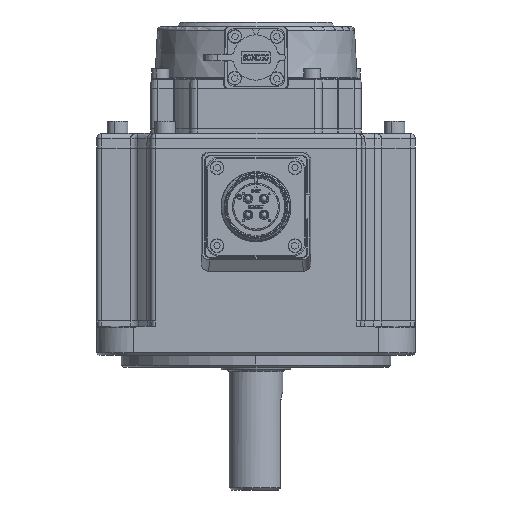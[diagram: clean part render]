
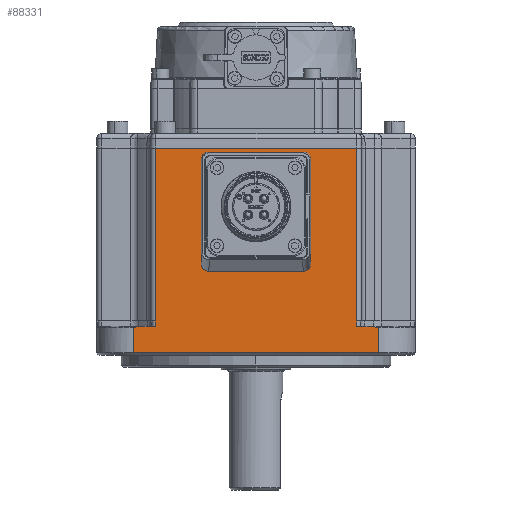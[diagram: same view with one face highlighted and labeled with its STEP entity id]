
A CAD part, left-side view. The second image highlights one B-rep face of the part: STEP entity #88331.
In plain terms, the highlighted planar face has unit normal (-1, 0, 0).
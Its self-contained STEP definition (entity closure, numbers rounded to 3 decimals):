
#738 = VECTOR ( 'NONE', #72675, 1000. ) ;
#1476 = VECTOR ( 'NONE', #42915, 1000. ) ;
#1719 = ORIENTED_EDGE ( 'NONE', *, *, #7690, .T. ) ;
#2017 = VECTOR ( 'NONE', #93277, 1000. ) ;
#3777 = VERTEX_POINT ( 'NONE', #29161 ) ;
#6584 = CARTESIAN_POINT ( 'NONE',  ( -65., -41.035, 33.75 ) ) ;
#7690 = EDGE_CURVE ( 'NONE', #49810, #59079, #87220, .T. ) ;
#10618 = CARTESIAN_POINT ( 'NONE',  ( -65., -50., 33.75 ) ) ;
#10635 = CARTESIAN_POINT ( 'NONE',  ( -65., 50., 33.75 ) ) ;
#10963 = VERTEX_POINT ( 'NONE', #95798 ) ;
#11436 = VECTOR ( 'NONE', #28875, 1000. ) ;
#11729 = LINE ( 'NONE', #62668, #22229 ) ;
#13760 = CARTESIAN_POINT ( 'NONE',  ( -65., -41.035, -39.096 ) ) ;
#14695 = VERTEX_POINT ( 'NONE', #39243 ) ;
#16201 = VERTEX_POINT ( 'NONE', #95745 ) ;
#19129 = DIRECTION ( 'NONE',  ( 0., 0., -1. ) ) ;
#19313 = EDGE_CURVE ( 'NONE', #10963, #14695, #31555, .T. ) ;
#20188 = EDGE_CURVE ( 'NONE', #75779, #14695, #26968, .T. ) ;
#20271 = EDGE_CURVE ( 'NONE', #98605, #10963, #52956, .T. ) ;
#20412 = ORIENTED_EDGE ( 'NONE', *, *, #74890, .F. ) ;
#21114 = DIRECTION ( 'NONE',  ( 0., 0., 1. ) ) ;
#21327 = CARTESIAN_POINT ( 'NONE',  ( -65., 50., -39.247 ) ) ;
#22229 = VECTOR ( 'NONE', #61091, 1000. ) ;
#22722 = ORIENTED_EDGE ( 'NONE', *, *, #61776, .F. ) ;
#24383 = LINE ( 'NONE', #97054, #738 ) ;
#26968 = LINE ( 'NONE', #60919, #2017 ) ;
#28875 = DIRECTION ( 'NONE',  ( 0., 0., -1. ) ) ;
#29161 = CARTESIAN_POINT ( 'NONE',  ( -65., -50., -49.75 ) ) ;
#31555 = LINE ( 'NONE', #6584, #98521 ) ;
#33081 = CARTESIAN_POINT ( 'NONE',  ( -65., 41.035, -39.094 ) ) ;
#33848 = EDGE_LOOP ( 'NONE', ( #34436, #1719, #20412, #98635, #89975, #66725, #22722, #56338, #94186, #101081 ) ) ;
#34436 = ORIENTED_EDGE ( 'NONE', *, *, #78892, .T. ) ;
#38987 = DIRECTION ( 'NONE',  ( 0., 0., 1. ) ) ;
#39243 = CARTESIAN_POINT ( 'NONE',  ( -65., -41.035, 33.75 ) ) ;
#42915 = DIRECTION ( 'NONE',  ( 0., -1., -0.018 ) ) ;
#45476 = VECTOR ( 'NONE', #96777, 1000. ) ;
#45833 = CARTESIAN_POINT ( 'NONE',  ( -65., 41.035, -36.75 ) ) ;
#47178 = PLANE ( 'NONE',  #100098 ) ;
#48969 = VERTEX_POINT ( 'NONE', #82466 ) ;
#49422 = VECTOR ( 'NONE', #19129, 1000. ) ;
#49810 = VERTEX_POINT ( 'NONE', #45833 ) ;
#52956 = LINE ( 'NONE', #91695, #61356 ) ;
#53543 = DIRECTION ( 'NONE',  ( 1., 0., 0. ) ) ;
#56338 = ORIENTED_EDGE ( 'NONE', *, *, #20271, .T. ) ;
#59079 = VERTEX_POINT ( 'NONE', #33081 ) ;
#60768 = EDGE_CURVE ( 'NONE', #48969, #3777, #72387, .T. ) ;
#60919 = CARTESIAN_POINT ( 'NONE',  ( -65., -43., 33.75 ) ) ;
#61091 = DIRECTION ( 'NONE',  ( 0., -1., 0.017 ) ) ;
#61356 = VECTOR ( 'NONE', #21114, 1000. ) ;
#61774 = CARTESIAN_POINT ( 'NONE',  ( -65., 41.035, -36.75 ) ) ;
#61776 = EDGE_CURVE ( 'NONE', #98605, #16201, #81701, .T. ) ;
#61812 = CARTESIAN_POINT ( 'NONE',  ( -65., 41.035, 33.75 ) ) ;
#62668 = CARTESIAN_POINT ( 'NONE',  ( -65., -44.224, -37.631 ) ) ;
#66725 = ORIENTED_EDGE ( 'NONE', *, *, #85316, .T. ) ;
#68704 = VERTEX_POINT ( 'NONE', #21327 ) ;
#69021 = LINE ( 'NONE', #10635, #49422 ) ;
#70675 = VECTOR ( 'NONE', #91816, 1000. ) ;
#71021 = DIRECTION ( 'NONE',  ( 0., 1., 0. ) ) ;
#72387 = LINE ( 'NONE', #96266, #45476 ) ;
#72493 = EDGE_CURVE ( 'NONE', #68704, #48969, #69021, .T. ) ;
#72675 = DIRECTION ( 'NONE',  ( 0., 0., -1. ) ) ;
#74890 = EDGE_CURVE ( 'NONE', #68704, #59079, #11729, .T. ) ;
#75374 = LINE ( 'NONE', #10618, #70675 ) ;
#75779 = VERTEX_POINT ( 'NONE', #61812 ) ;
#78892 = EDGE_CURVE ( 'NONE', #75779, #49810, #24383, .T. ) ;
#79009 = CARTESIAN_POINT ( 'NONE',  ( -65., -43., 33.75 ) ) ;
#81701 = LINE ( 'NONE', #89640, #1476 ) ;
#82466 = CARTESIAN_POINT ( 'NONE',  ( -65., 50., -49.75 ) ) ;
#85316 = EDGE_CURVE ( 'NONE', #3777, #16201, #75374, .T. ) ;
#87220 = LINE ( 'NONE', #61774, #11436 ) ;
#88331 = ADVANCED_FACE ( 'NONE', ( #103387 ), #47178, .F. ) ;
#89640 = CARTESIAN_POINT ( 'NONE',  ( -65., -41.707, -39.108 ) ) ;
#89975 = ORIENTED_EDGE ( 'NONE', *, *, #60768, .T. ) ;
#91695 = CARTESIAN_POINT ( 'NONE',  ( -65., -41.035, 33.75 ) ) ;
#91816 = DIRECTION ( 'NONE',  ( 0., 0., 1. ) ) ;
#93277 = DIRECTION ( 'NONE',  ( 0., -1., 0. ) ) ;
#94186 = ORIENTED_EDGE ( 'NONE', *, *, #19313, .T. ) ;
#95745 = CARTESIAN_POINT ( 'NONE',  ( -65., -50., -39.256 ) ) ;
#95798 = CARTESIAN_POINT ( 'NONE',  ( -65., -41.035, -36.75 ) ) ;
#96266 = CARTESIAN_POINT ( 'NONE',  ( -65., -50., -49.75 ) ) ;
#96777 = DIRECTION ( 'NONE',  ( 0., -1., 0. ) ) ;
#97054 = CARTESIAN_POINT ( 'NONE',  ( -65., 41.035, 33.75 ) ) ;
#98521 = VECTOR ( 'NONE', #38987, 1000. ) ;
#98605 = VERTEX_POINT ( 'NONE', #13760 ) ;
#98635 = ORIENTED_EDGE ( 'NONE', *, *, #72493, .T. ) ;
#100098 = AXIS2_PLACEMENT_3D ( 'NONE', #79009, #53543, #71021 ) ;
#101081 = ORIENTED_EDGE ( 'NONE', *, *, #20188, .F. ) ;
#103387 = FACE_OUTER_BOUND ( 'NONE', #33848, .T. ) ;
